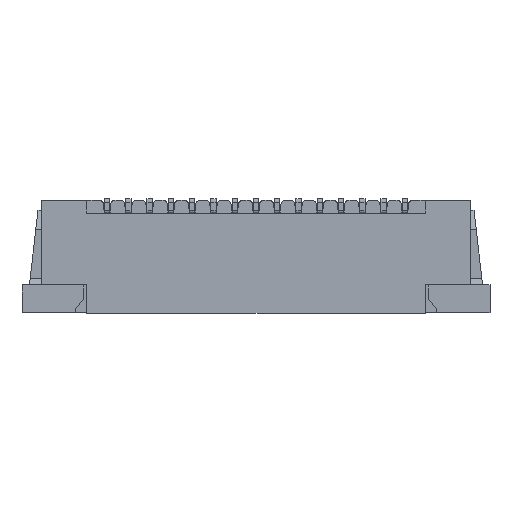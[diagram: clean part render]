
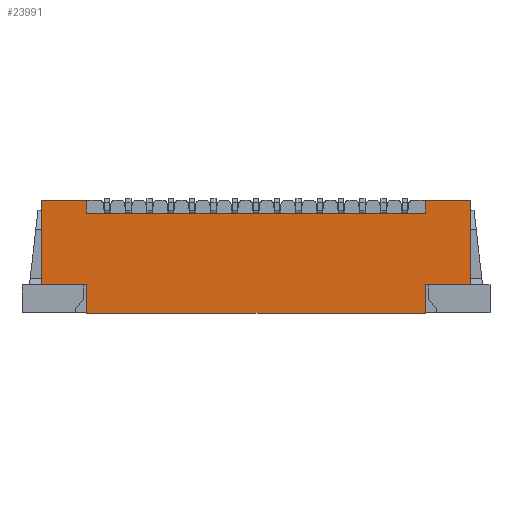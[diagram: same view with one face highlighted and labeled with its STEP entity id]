
A CAD part, top view. The second image highlights one B-rep face of the part: STEP entity #23991.
In plain terms, the highlighted planar face has unit normal (0, 0, 1).
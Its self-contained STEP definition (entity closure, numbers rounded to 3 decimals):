
#190 = ORIENTED_EDGE ( 'NONE', *, *, #27444, .T. ) ;
#300 = DIRECTION ( 'NONE',  ( 0., 1., 0. ) ) ;
#797 = ORIENTED_EDGE ( 'NONE', *, *, #31396, .T. ) ;
#804 = EDGE_CURVE ( 'NONE', #36892, #24295, #23455, .T. ) ;
#1192 = LINE ( 'NONE', #9235, #11286 ) ;
#3024 = VECTOR ( 'NONE', #41644, 1000. ) ;
#3719 = ORIENTED_EDGE ( 'NONE', *, *, #58451, .T. ) ;
#3797 = CARTESIAN_POINT ( 'NONE',  ( 5.45, 0.6, 0. ) ) ;
#3962 = VECTOR ( 'NONE', #48762, 1000. ) ;
#4013 = DIRECTION ( 'NONE',  ( -1., 0., 0. ) ) ;
#4093 = ORIENTED_EDGE ( 'NONE', *, *, #804, .T. ) ;
#4172 = LINE ( 'NONE', #36023, #29082 ) ;
#4476 = DIRECTION ( 'NONE',  ( 0., 1., 0. ) ) ;
#4770 = VECTOR ( 'NONE', #4013, 1000. ) ;
#6112 = VECTOR ( 'NONE', #56960, 1000. ) ;
#6447 = CARTESIAN_POINT ( 'NONE',  ( 5.45, -3.37, 0. ) ) ;
#6937 = VECTOR ( 'NONE', #44904, 1000. ) ;
#7147 = VERTEX_POINT ( 'NONE', #51767 ) ;
#8778 = CARTESIAN_POINT ( 'NONE',  ( -9.871, 0.6, 0. ) ) ;
#9235 = CARTESIAN_POINT ( 'NONE',  ( -10.45, 0., 0. ) ) ;
#9644 = CARTESIAN_POINT ( 'NONE',  ( -10.45, 0.6, 0. ) ) ;
#9828 = VERTEX_POINT ( 'NONE', #17704 ) ;
#10504 = ORIENTED_EDGE ( 'NONE', *, *, #37935, .T. ) ;
#10736 = LINE ( 'NONE', #49862, #30123 ) ;
#11286 = VECTOR ( 'NONE', #4476, 1000. ) ;
#13981 = CARTESIAN_POINT ( 'NONE',  ( 7.6, 0.6, 0. ) ) ;
#14100 = ORIENTED_EDGE ( 'NONE', *, *, #14379, .T. ) ;
#14376 = CARTESIAN_POINT ( 'NONE',  ( 7.6, -3.37, 0. ) ) ;
#14379 = EDGE_CURVE ( 'NONE', #21030, #58485, #52494, .T. ) ;
#15384 = EDGE_CURVE ( 'NONE', #27967, #38611, #49947, .T. ) ;
#16043 = CARTESIAN_POINT ( 'NONE',  ( -10.45, -4.7, 0. ) ) ;
#16448 = EDGE_CURVE ( 'NONE', #24295, #7147, #35949, .T. ) ;
#17260 = LINE ( 'NONE', #45790, #57396 ) ;
#17341 = EDGE_CURVE ( 'NONE', #17739, #36892, #17260, .T. ) ;
#17692 = EDGE_CURVE ( 'NONE', #9828, #21030, #50472, .T. ) ;
#17704 = CARTESIAN_POINT ( 'NONE',  ( 5.45, -4.7, 0. ) ) ;
#17735 = DIRECTION ( 'NONE',  ( 0., 0., 1. ) ) ;
#17739 = VERTEX_POINT ( 'NONE', #18584 ) ;
#18228 = EDGE_LOOP ( 'NONE', ( #797, #58851, #14100, #24098, #3719, #31106, #25094, #190, #10504, #58205, #4093, #32606 ) ) ;
#18584 = CARTESIAN_POINT ( 'NONE',  ( -12.6, 0.6, 0. ) ) ;
#18695 = CARTESIAN_POINT ( 'NONE',  ( -12.6, -3.37, 0. ) ) ;
#19243 = DIRECTION ( 'NONE',  ( 0., -1., 0. ) ) ;
#20014 = VECTOR ( 'NONE', #36400, 1000. ) ;
#20724 = FACE_OUTER_BOUND ( 'NONE', #18228, .T. ) ;
#21030 = VERTEX_POINT ( 'NONE', #6447 ) ;
#21102 = LINE ( 'NONE', #16043, #36572 ) ;
#21578 = VERTEX_POINT ( 'NONE', #43885 ) ;
#21904 = DIRECTION ( 'NONE',  ( 1., 0., 0. ) ) ;
#22354 = CARTESIAN_POINT ( 'NONE',  ( -10.45, -3.37, 0. ) ) ;
#22475 = DIRECTION ( 'NONE',  ( 0., 1., 0. ) ) ;
#22680 = CARTESIAN_POINT ( 'NONE',  ( -0.365, 0., 0. ) ) ;
#23017 = DIRECTION ( 'NONE',  ( -1., 0., 0. ) ) ;
#23455 = LINE ( 'NONE', #18695, #3024 ) ;
#23991 = ADVANCED_FACE ( 'NONE', ( #20724 ), #38907, .T. ) ;
#24098 = ORIENTED_EDGE ( 'NONE', *, *, #44055, .T. ) ;
#24295 = VERTEX_POINT ( 'NONE', #22354 ) ;
#25094 = ORIENTED_EDGE ( 'NONE', *, *, #50131, .F. ) ;
#25946 = CARTESIAN_POINT ( 'NONE',  ( 5.45, -3.37, 0. ) ) ;
#27444 = EDGE_CURVE ( 'NONE', #21578, #38118, #1192, .T. ) ;
#27967 = VERTEX_POINT ( 'NONE', #46681 ) ;
#28454 = AXIS2_PLACEMENT_3D ( 'NONE', #34435, #17735, #21904 ) ;
#29082 = VECTOR ( 'NONE', #300, 1000. ) ;
#30123 = VECTOR ( 'NONE', #23017, 1000. ) ;
#31106 = ORIENTED_EDGE ( 'NONE', *, *, #15384, .F. ) ;
#31396 = EDGE_CURVE ( 'NONE', #7147, #9828, #21102, .T. ) ;
#31633 = LINE ( 'NONE', #22680, #20014 ) ;
#32606 = ORIENTED_EDGE ( 'NONE', *, *, #16448, .T. ) ;
#32938 = VERTEX_POINT ( 'NONE', #13981 ) ;
#33655 = DIRECTION ( 'NONE',  ( 1., 0., 0. ) ) ;
#34244 = CARTESIAN_POINT ( 'NONE',  ( -12.6, -3.37, 0. ) ) ;
#34435 = CARTESIAN_POINT ( 'NONE',  ( -0.129, 0.4, 0. ) ) ;
#35655 = CARTESIAN_POINT ( 'NONE',  ( -10.45, -3.37, 0. ) ) ;
#35949 = LINE ( 'NONE', #35655, #6937 ) ;
#36023 = CARTESIAN_POINT ( 'NONE',  ( 7.6, -3.37, 0. ) ) ;
#36400 = DIRECTION ( 'NONE',  ( 1., 0., 0. ) ) ;
#36455 = LINE ( 'NONE', #8778, #4770 ) ;
#36572 = VECTOR ( 'NONE', #33655, 1000. ) ;
#36892 = VERTEX_POINT ( 'NONE', #34244 ) ;
#37935 = EDGE_CURVE ( 'NONE', #38118, #17739, #36455, .T. ) ;
#38118 = VERTEX_POINT ( 'NONE', #9644 ) ;
#38611 = VERTEX_POINT ( 'NONE', #3797 ) ;
#38907 = PLANE ( 'NONE',  #28454 ) ;
#41644 = DIRECTION ( 'NONE',  ( 1., 0., 0. ) ) ;
#41823 = CARTESIAN_POINT ( 'NONE',  ( 5.45, -4.7, 0. ) ) ;
#43885 = CARTESIAN_POINT ( 'NONE',  ( -10.45, 0., 0. ) ) ;
#44055 = EDGE_CURVE ( 'NONE', #58485, #32938, #4172, .T. ) ;
#44904 = DIRECTION ( 'NONE',  ( 0., -1., 0. ) ) ;
#45790 = CARTESIAN_POINT ( 'NONE',  ( -12.6, 0.6, 0. ) ) ;
#46681 = CARTESIAN_POINT ( 'NONE',  ( 5.45, 0., 0. ) ) ;
#48762 = DIRECTION ( 'NONE',  ( 0., 1., 0. ) ) ;
#49847 = VECTOR ( 'NONE', #22475, 1000. ) ;
#49862 = CARTESIAN_POINT ( 'NONE',  ( 7.6, 0.6, 0. ) ) ;
#49947 = LINE ( 'NONE', #57983, #3962 ) ;
#50131 = EDGE_CURVE ( 'NONE', #21578, #27967, #31633, .T. ) ;
#50472 = LINE ( 'NONE', #41823, #49847 ) ;
#51767 = CARTESIAN_POINT ( 'NONE',  ( -10.45, -4.7, 0. ) ) ;
#52494 = LINE ( 'NONE', #25946, #6112 ) ;
#56960 = DIRECTION ( 'NONE',  ( 1., 0., 0. ) ) ;
#57396 = VECTOR ( 'NONE', #19243, 1000. ) ;
#57983 = CARTESIAN_POINT ( 'NONE',  ( 5.45, 0., 0. ) ) ;
#58205 = ORIENTED_EDGE ( 'NONE', *, *, #17341, .T. ) ;
#58451 = EDGE_CURVE ( 'NONE', #32938, #38611, #10736, .T. ) ;
#58485 = VERTEX_POINT ( 'NONE', #14376 ) ;
#58851 = ORIENTED_EDGE ( 'NONE', *, *, #17692, .T. ) ;
